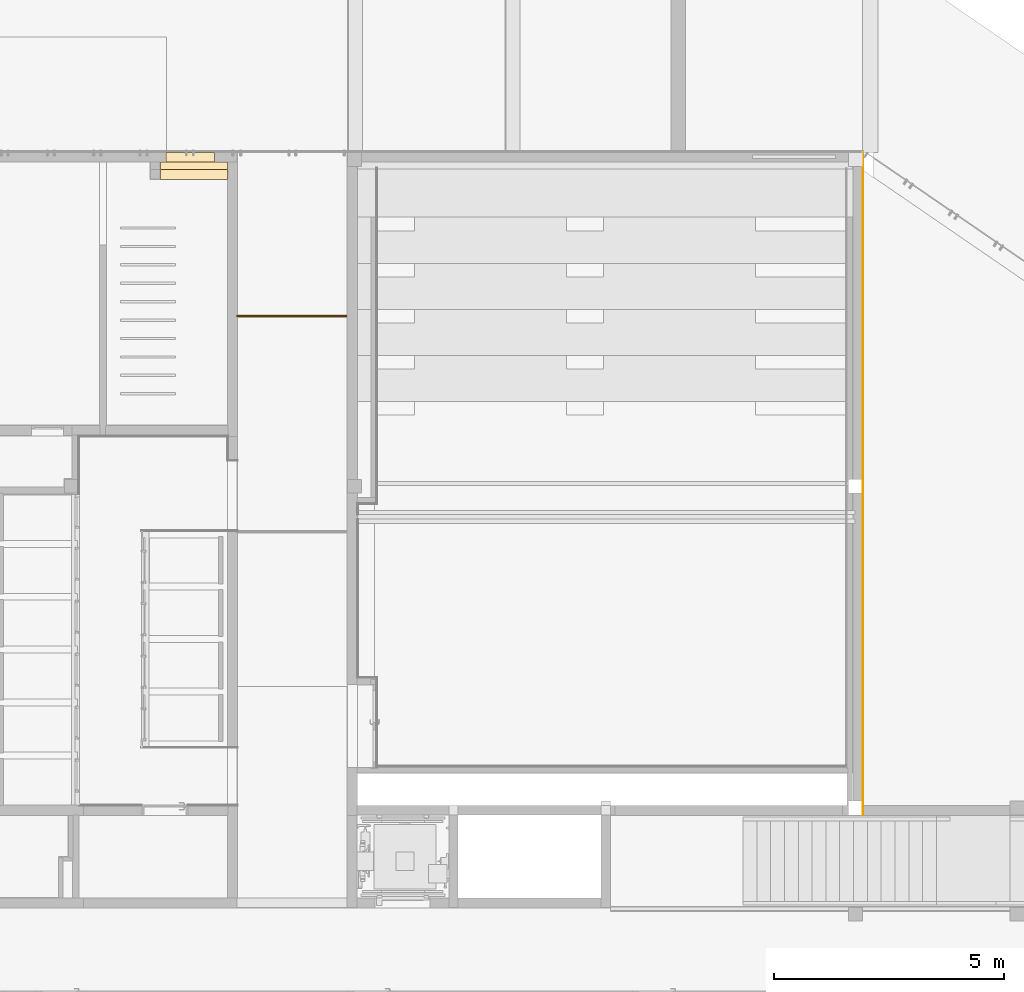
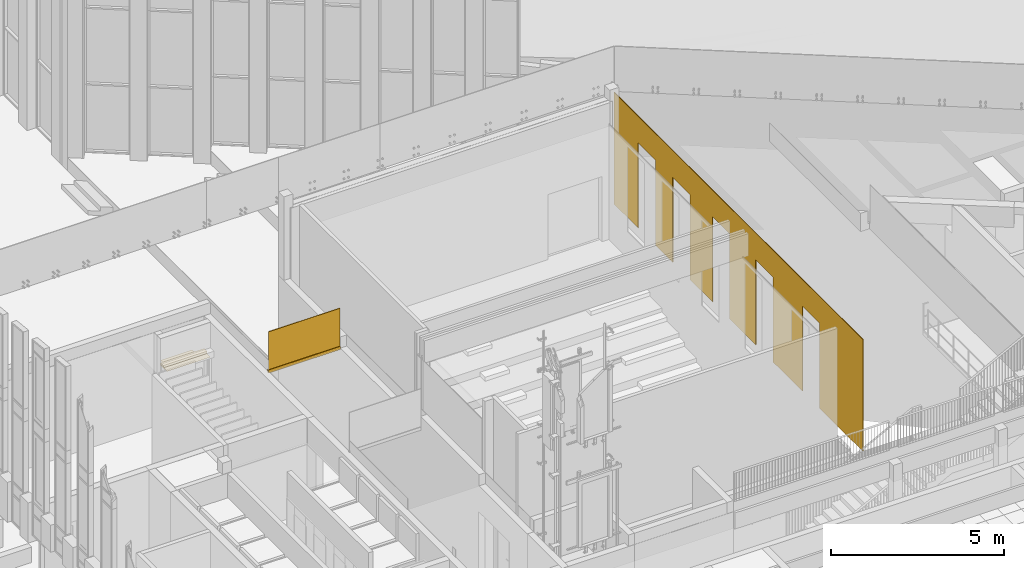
# One storey, part 173 of 246: 3 coverings, 1 railing, 5 openings.
"""IFC2X3 building model written with IfcOpenShell, lengths in millimetres."""

from ifc_helpers import new_model, entity, si_unit, converted_unit, derived_unit, money_unit, direction, frame, origin_with_axes, place, context, subcontext, project, spatial, faceted_brep, material, material_list, type_object, element, save


model = new_model("IFC2X3")

# Units and contexts
model_context = context("Model", 3, precision=0.01, world=origin_with_axes(), true_north=direction((0.0, 1.0)))
body_context = subcontext(model_context, "Body", "Model", "MODEL_VIEW")
ifc_project = project(units=[si_unit("LENGTHUNIT", "METRE", prefix="MILLI"), si_unit("AREAUNIT", "SQUARE_METRE"), si_unit("VOLUMEUNIT", "CUBIC_METRE"), converted_unit("PLANEANGLEUNIT", "DEGREE", entity("IfcPlaneAngleMeasure", 0.0174532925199), si_unit("PLANEANGLEUNIT", "RADIAN"), dimensions=[0, 0, 0, 0, 0, 0, 0]), si_unit("SOLIDANGLEUNIT", "STERADIAN"), money_unit("EUR"), converted_unit("TIMEUNIT", "Year", entity("IfcTimeMeasure", 31556926.0), si_unit("TIMEUNIT", "SECOND"), dimensions=[0, 0, 1, 0, 0, 0, 0]), si_unit("MASSUNIT", "GRAM", prefix="KILO"), si_unit("THERMODYNAMICTEMPERATUREUNIT", "DEGREE_CELSIUS"), si_unit("LUMINOUSINTENSITYUNIT", "LUMEN"), si_unit("ENERGYUNIT", "JOULE", prefix="MEGA"), derived_unit("THERMALCONDUCTANCEUNIT", [(si_unit("POWERUNIT", "WATT"), 1), (si_unit("LENGTHUNIT", "METRE"), -1), (si_unit("THERMODYNAMICTEMPERATUREUNIT", "KELVIN"), -1)]), derived_unit("SPECIFICHEATCAPACITYUNIT", [(si_unit("ENERGYUNIT", "JOULE"), 1), (si_unit("MASSUNIT", "GRAM", prefix="KILO"), -1), (si_unit("THERMODYNAMICTEMPERATUREUNIT", "KELVIN"), -1)]), derived_unit("MASSDENSITYUNIT", [(si_unit("MASSUNIT", "GRAM", prefix="KILO"), 1), (si_unit("VOLUMEUNIT", "CUBIC_METRE"), -1)])], contexts=[model_context])

# Site, building, storey
site_placement = place(None, origin_with_axes())
site = spatial("IfcSite", under=ifc_project, at=site_placement, Name="L.Koidula tn 11b", CompositionType="ELEMENT")
building_placement = place(site_placement, origin_with_axes())
building = spatial("IfcBuilding", under=site, at=building_placement, Name="Rakvere Riigigümnaasium", CompositionType="ELEMENT")
storey_placement = place(building_placement, origin_with_axes())
storey = spatial("IfcBuildingStorey", under=building, at=storey_placement, Name="1.korrus 0,00", CompositionType="ELEMENT", Elevation=0.0)

# Covering
ifc_material_1 = material(Name="mineraalvill+karkass")
ifc_material_2 = material(Name="SKR-02_Kipsplaat")
ifc_material_list_1 = material_list([ifc_material_1, ifc_material_2])
covering_type_1 = type_object("IfcCoveringType", Name="SA-LV-kips 79", PredefinedType="CEILING")
covering_1_placement = place(storey_placement, frame((42934.9999559, 31130.4555111, 2100.0), z_axis=(0.0, 0.0, 1.0), x_axis=(1.0, 0.0, 0.0)))
element("IfcCovering", 1, at=covering_1_placement, inside=storey, type_object=covering_type_1, material=ifc_material_list_1, Name="L-04", PredefinedType="CEILING", context=body_context, shape_type="Brep", body=[
    faceted_brep([(1450.00003519, 0.0, 12.5), (1450.00003519, 0.0, 78.5), (0.0, 0.0, 78.5), (0.0, 0.0, 12.5), (1450.00003519, 160.0, 12.5), (1450.00003519, 160.0, 78.5), (0.0, 160.0, 78.5), (0.0, 160.0, 12.5)], [[[0, 1, 2, 3]], [[4, 5, 1, 0]], [[2, 1, 5, 6]], [[3, 2, 6, 7]], [[3, 7, 4, 0]], [[7, 6, 5, 4]]]),
    faceted_brep([(0.0, 0.0, 0.0), (1450.00003519, 0.0, 0.0), (1450.00003519, 0.0, 12.5), (0.0, 0.0, 12.5), (0.0, 160.0, 0.0), (1450.00003519, 160.0, 0.0), (1450.00003519, 160.0, 12.5), (0.0, 160.0, 12.5)], [[[0, 1, 2, 3]], [[0, 4, 5, 1]], [[1, 5, 6, 2]], [[3, 2, 6, 7]], [[4, 0, 3, 7]], [[5, 4, 7, 6]]]),
])

# Covering, openings
ifc_material_3 = material(Name="MDF")
covering_type_2 = type_object("IfcCoveringType", Name="MDF 20", PredefinedType="CLADDING")
covering_2_placement = place(storey_placement, frame((58185.0348101, 31500.4556416, 2325.0), z_axis=(0.0, 0.0, 1.0), x_axis=(0.0, -1.0, 0.0)))
covering_2 = element("IfcCovering", 2, at=covering_2_placement, inside=storey, type_object=covering_type_2, material=ifc_material_3, Name="S-05", PredefinedType="CLADDING", context=body_context, shape_type="Brep", body=[
    faceted_brep([(11904.3100292, 20.0, 0.0), (11904.3100292, 20.0, 3000.0), (10904.3100292, 20.0, 3000.0), (10904.3100292, 20.0, 0.0), (9204.45919987, 20.0, 0.0), (9204.45919987, 20.0, 3000.0), (8204.45919987, 20.0, 3000.0), (8204.45919987, 20.0, 0.0), (6704.14886705, 20.0, 0.0), (6704.14886705, 20.0, 3000.0), (5704.14886705, 20.0, 3000.0), (5704.14886705, 20.0, 0.0), (4404.64644504, 20.0, 0.0), (4404.64644504, 20.0, 3000.0), (3404.64644504, 20.0, 3000.0), (3404.64644504, 20.0, 0.0), (2405.04644504, 20.0, 0.0), (2405.04644504, 20.0, 3000.0), (1405.04644504, 20.0, 3000.0), (1405.04644504, 20.0, 0.0), (0.0, 20.0, 0.0), (0.0, 20.0, 3945.0), (14400.0001321, 20.0, 3945.0), (14400.0001321, 20.0, 0.0), (11904.3100292, 0.0, 0.0), (11904.3100292, 0.0, 3000.0), (10904.3100292, 0.0, 3000.0), (10904.3100292, 0.0, 0.0), (9204.45919987, 0.0, 0.0), (9204.45919987, 0.0, 3000.0), (8204.45919987, 0.0, 3000.0), (8204.45919987, 0.0, 0.0), (6704.14886705, 0.0, 0.0), (6704.14886705, 0.0, 3000.0), (5704.14886705, 0.0, 3000.0), (5704.14886705, 0.0, 0.0), (4404.64644504, 0.0, 0.0), (4404.64644504, 0.0, 3000.0), (3404.64644504, 0.0, 3000.0), (3404.64644504, 0.0, 0.0), (2405.04644504, 0.0, 0.0), (2405.04644504, 0.0, 3000.0), (1405.04644504, 0.0, 3000.0), (1405.04644504, 0.0, 0.0), (0.0, 0.0, 0.0), (0.0, 0.0, 3945.0), (14400.0001321, 0.0, 3945.0), (14400.0001321, 0.0, 0.0)], [[[0, 1, 2, 3, 4, 5, 6, 7, 8, 9, 10, 11, 12, 13, 14, 15, 16, 17, 18, 19, 20, 21, 22, 23]], [[1, 0, 24, 25]], [[2, 1, 25, 26]], [[3, 2, 26, 27]], [[3, 27, 28, 4]], [[4, 28, 29, 5]], [[5, 29, 30, 6]], [[6, 30, 31, 7]], [[31, 32, 8, 7]], [[32, 33, 9, 8]], [[33, 34, 10, 9]], [[34, 35, 11, 10]], [[36, 12, 11, 35]], [[37, 13, 12, 36]], [[38, 14, 13, 37]], [[39, 15, 14, 38]], [[16, 15, 39, 40]], [[17, 16, 40, 41]], [[18, 17, 41, 42]], [[19, 18, 42, 43]], [[19, 43, 44, 20]], [[45, 21, 20, 44]], [[46, 22, 21, 45]], [[46, 47, 23, 22]], [[24, 0, 23, 47]], [[25, 24, 47, 46, 45, 44, 43, 42, 41, 40, 39, 38, 37, 36, 35, 34, 33, 32, 31, 30, 29, 28, 27, 26]]]),
])
opening_1_placement = place(covering_2_placement, frame((1905.04644504, 0.0, 0.0), z_axis=(0.0, 0.0, 1.0), x_axis=(1.0, 0.0, 0.0)))
element("IfcOpeningElement", 3, at=opening_1_placement, cuts=covering_2, Name="ava", context=body_context, shape_type="Brep", body=[
    faceted_brep([(500.0, 40.0, 0.0), (500.0, 40.0, 3000.0), (500.0, -20.0, 3000.0), (500.0, -20.0, 0.0), (-500.0, 40.0, 0.0), (-500.0, 40.0, 3000.0), (-500.0, -20.0, 3000.0), (-500.0, -20.0, 0.0)], [[[0, 1, 2, 3]], [[0, 4, 5, 1]], [[1, 5, 6, 2]], [[3, 2, 6, 7]], [[4, 0, 3, 7]], [[5, 4, 7, 6]]]),
])
opening_2_placement = place(covering_2_placement, frame((3904.64644504, 0.0, 0.0), z_axis=(0.0, 0.0, 1.0), x_axis=(1.0, 0.0, 0.0)))
element("IfcOpeningElement", 4, at=opening_2_placement, cuts=covering_2, Name="ava", context=body_context, shape_type="Brep", body=[
    faceted_brep([(500.0, 40.0, 0.0), (500.0, 40.0, 3000.0), (500.0, -20.0, 3000.0), (500.0, -20.0, 0.0), (-500.0, 40.0, 0.0), (-500.0, 40.0, 3000.0), (-500.0, -20.0, 3000.0), (-500.0, -20.0, 0.0)], [[[0, 1, 2, 3]], [[0, 4, 5, 1]], [[1, 5, 6, 2]], [[3, 2, 6, 7]], [[4, 0, 3, 7]], [[5, 4, 7, 6]]]),
])
opening_3_placement = place(covering_2_placement, frame((6204.14886705, 0.0, 0.0), z_axis=(0.0, 0.0, 1.0), x_axis=(1.0, 0.0, 0.0)))
element("IfcOpeningElement", 5, at=opening_3_placement, cuts=covering_2, Name="ava", context=body_context, shape_type="Brep", body=[
    faceted_brep([(500.0, 40.0, 0.0), (500.0, 40.0, 3000.0), (500.0, -20.0, 3000.0), (500.0, -20.0, 0.0), (-500.0, 40.0, 0.0), (-500.0, 40.0, 3000.0), (-500.0, -20.0, 3000.0), (-500.0, -20.0, 0.0)], [[[0, 1, 2, 3]], [[0, 4, 5, 1]], [[1, 5, 6, 2]], [[3, 2, 6, 7]], [[4, 0, 3, 7]], [[5, 4, 7, 6]]]),
])
opening_4_placement = place(covering_2_placement, frame((8704.45919987, 0.0, 0.0), z_axis=(0.0, 0.0, 1.0), x_axis=(1.0, 0.0, 0.0)))
element("IfcOpeningElement", 6, at=opening_4_placement, cuts=covering_2, Name="ava", context=body_context, shape_type="Brep", body=[
    faceted_brep([(500.0, 40.0, 0.0), (500.0, 40.0, 3000.0), (500.0, -20.0, 3000.0), (500.0, -20.0, 0.0), (-500.0, 40.0, 0.0), (-500.0, 40.0, 3000.0), (-500.0, -20.0, 3000.0), (-500.0, -20.0, 0.0)], [[[0, 1, 2, 3]], [[0, 4, 5, 1]], [[1, 5, 6, 2]], [[3, 2, 6, 7]], [[4, 0, 3, 7]], [[5, 4, 7, 6]]]),
])
opening_5_placement = place(covering_2_placement, frame((11404.3100292, 0.0, 0.0), z_axis=(0.0, 0.0, 1.0), x_axis=(1.0, 0.0, 0.0)))
element("IfcOpeningElement", 7, at=opening_5_placement, cuts=covering_2, Name="ava", context=body_context, shape_type="Brep", body=[
    faceted_brep([(500.0, 40.0, 0.0), (500.0, 40.0, 3000.0), (500.0, -20.0, 3000.0), (500.0, -20.0, 0.0), (-500.0, 40.0, 0.0), (-500.0, 40.0, 3000.0), (-500.0, -20.0, 3000.0), (-500.0, -20.0, 0.0)], [[[0, 1, 2, 3]], [[0, 4, 5, 1]], [[1, 5, 6, 2]], [[3, 2, 6, 7]], [[4, 0, 3, 7]], [[5, 4, 7, 6]]]),
])

# Covering
ifc_material_4 = material(Name="Salto-siseviimistlus-ripplagi")
covering_type_3 = type_object("IfcCoveringType", Name="Salto-siseviimistlus-ripplagi 1", PredefinedType="CLADDING")
covering_3_placement = place(storey_placement, frame((43054.9999864, 31285.4555014, 2100.0), z_axis=(0.0, 0.0, 1.0), x_axis=(1.0, 0.0, 0.0)))
element("IfcCovering", 8, at=covering_3_placement, inside=storey, type_object=covering_type_3, material=ifc_material_4, Name="L-10", PredefinedType="CLADDING", context=body_context, shape_type="Brep", body=[
    faceted_brep([(0.0, 0.0, 0.0), (0.0, 0.0, -1.0), (-120.000030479, 0.0, -1.0), (-120.000030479, 0.0, 0.0), (0.0, 215.000001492, 0.0), (0.0, 215.000001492, -1.0), (1050.00001281, 215.000001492, -1.0), (1050.00001281, 0.0, -1.0), (1330.00000471, 0.0, -1.0), (1330.00000471, -366.999972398, -1.0), (-120.000030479, -366.999972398, -1.0), (-120.000030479, -366.999972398, 0.0), (1330.00000471, -366.999972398, 0.0), (1330.00000471, 0.0, 0.0), (1050.00001281, 0.0, 0.0), (1050.00001281, 215.000001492, 0.0)], [[[0, 1, 2, 3]], [[4, 5, 1, 0]], [[2, 1, 5, 6, 7, 8, 9, 10]], [[3, 2, 10, 11]], [[4, 0, 3, 11, 12, 13, 14, 15]], [[15, 6, 5, 4]], [[14, 7, 6, 15]], [[13, 8, 7, 14]], [[12, 9, 8, 13]], [[11, 10, 9, 12]]]),
])

# Railing
ifc_material_5 = material(Name="Alumiiniumprofiil")
ifc_material_6 = material(Name="VKR-05_Klaas")
ifc_material_7 = material(Name="ET-07_Teras - Roostevaba")
ifc_material_list_2 = material_list([ifc_material_5, ifc_material_6, ifc_material_7, ifc_material_6, ifc_material_7])
railing_type = type_object("IfcRailingType", Name="Railing Type", PredefinedType="NOTDEFINED")
railing_placement = place(storey_placement, frame((46989.9999935, 27920.4556829, 3720.0), z_axis=(0.0, 0.0, 1.0), x_axis=(1.0, 0.0, 0.0)))
element("IfcRailing", 9, at=railing_placement, inside=storey, type_object=railing_type, material=ifc_material_list_2, Name="SP-45", PredefinedType="NOTDEFINED", context=body_context, shape_type="Brep", body=[
    faceted_brep([(0.0, 40.0, 1000.0), (0.0, 40.0, 980.0), (-2380.00000237, 40.0, 980.0), (-2380.00000237, 40.0, 1000.0), (0.0, 20.0, 1000.0), (0.0, 20.0, 980.0), (0.0, 38.0, 998.0), (0.0, 38.0, 982.0), (0.0, 22.0, 982.0), (0.0, 22.0, 998.0), (-2380.00000237, 20.0, 980.0), (-2380.00000237, 20.0, 1000.0), (-2380.00000237, 38.0, 998.0), (-2380.00000237, 22.0, 998.0), (-2380.00000237, 22.0, 982.0), (-2380.00000237, 38.0, 982.0)], [[[0, 1, 2, 3]], [[0, 4, 5, 1], [6, 7, 8, 9]], [[1, 5, 10, 2]], [[3, 2, 10, 11], [12, 13, 14, 15]], [[4, 0, 3, 11]], [[5, 4, 11, 10]], [[7, 6, 12, 15]], [[8, 7, 15, 14]], [[9, 8, 14, 13]], [[6, 9, 13, 12]]]),
    faceted_brep([(-1190.00000119, 22.0, -430.0), (0.0, 22.0, -430.0), (0.0, 22.0, 998.0), (-1190.00000119, 22.0, 998.0), (0.0, 38.0, -430.0), (-1190.00000119, 38.0, -430.0), (0.0, 38.0, 998.0), (-1190.00000119, 38.0, 998.0)], [[[0, 1, 2, 3]], [[4, 1, 0, 5]], [[6, 2, 1, 4]], [[3, 2, 6, 7]], [[0, 3, 7, 5]], [[6, 4, 5, 7]]]),
    faceted_brep([(0.0, 55.0, -337.0), (0.0, 55.0, -447.0), (-1190.00000119, 55.0, -447.0), (-1210.00000119, 55.0, -447.0), (-1210.00000119, 55.0, -337.0), (-1190.00000119, 55.0, -337.0), (0.0, 38.0, -337.0), (0.0, 38.0, -430.0), (0.0, 22.0, -430.0), (0.0, 22.0, -337.0), (0.0, 5.0, -337.0), (0.0, 5.0, -447.0), (-1190.00000119, 5.0, -447.0), (-1210.00000119, 5.0, -447.0), (-1210.00000119, 5.0, -337.0), (-1210.00000119, 22.0, -337.0), (-1210.00000119, 22.0, -430.0), (-1210.00000119, 38.0, -430.0), (-1210.00000119, 38.0, -337.0), (-1190.00000119, 38.0, -337.0), (-1190.00000119, 38.0, -430.0), (-1190.00000119, 22.0, -430.0), (-1190.00000119, 22.0, -337.0), (-1190.00000119, 5.0, -337.0)], [[[0, 1, 2, 3, 4, 5]], [[1, 0, 6, 7, 8, 9, 10, 11]], [[1, 11, 12, 13, 3, 2]], [[4, 3, 13, 14, 15, 16, 17, 18]], [[6, 0, 5, 4, 18, 19]], [[20, 7, 6, 19, 18, 17]], [[7, 20, 17, 16, 21, 8]], [[8, 21, 16, 15, 22, 9]], [[9, 22, 15, 14, 23, 10]], [[12, 11, 10, 23, 14, 13]]]),
    faceted_brep([(-2380.00000237, 22.0, -430.0), (-1190.00000119, 22.0, -430.0), (-1190.00000119, 22.0, 998.0), (-2380.00000237, 22.0, 998.0), (-1190.00000119, 38.0, -430.0), (-2380.00000237, 38.0, -430.0), (-1190.00000119, 38.0, 998.0), (-2380.00000237, 38.0, 998.0)], [[[0, 1, 2, 3]], [[4, 1, 0, 5]], [[6, 2, 1, 4]], [[3, 2, 6, 7]], [[0, 3, 7, 5]], [[6, 4, 5, 7]]]),
    faceted_brep([(-1190.00000119, 55.0, -337.0), (-1190.00000119, 55.0, -447.0), (-2380.00000237, 55.0, -447.0), (-2400.00000237, 55.0, -447.0), (-2400.00000237, 55.0, -337.0), (-2380.00000237, 55.0, -337.0), (-1190.00000119, 38.0, -337.0), (-1190.00000119, 38.0, -430.0), (-1190.00000119, 22.0, -430.0), (-1190.00000119, 22.0, -337.0), (-1190.00000119, 5.0, -337.0), (-1190.00000119, 5.0, -447.0), (-2380.00000237, 5.0, -447.0), (-2400.00000237, 5.0, -447.0), (-2400.00000237, 5.0, -337.0), (-2400.00000237, 22.0, -337.0), (-2400.00000237, 22.0, -430.0), (-2400.00000237, 38.0, -430.0), (-2400.00000237, 38.0, -337.0), (-2380.00000237, 38.0, -337.0), (-2380.00000237, 38.0, -430.0), (-2380.00000237, 22.0, -430.0), (-2380.00000237, 22.0, -337.0), (-2380.00000237, 5.0, -337.0)], [[[0, 1, 2, 3, 4, 5]], [[1, 0, 6, 7, 8, 9, 10, 11]], [[1, 11, 12, 13, 3, 2]], [[4, 3, 13, 14, 15, 16, 17, 18]], [[6, 0, 5, 4, 18, 19]], [[20, 7, 6, 19, 18, 17]], [[7, 20, 17, 16, 21, 8]], [[8, 21, 16, 15, 22, 9]], [[9, 22, 15, 14, 23, 10]], [[12, 11, 10, 23, 14, 13]]]),
])

save(model, "model.ifc")
